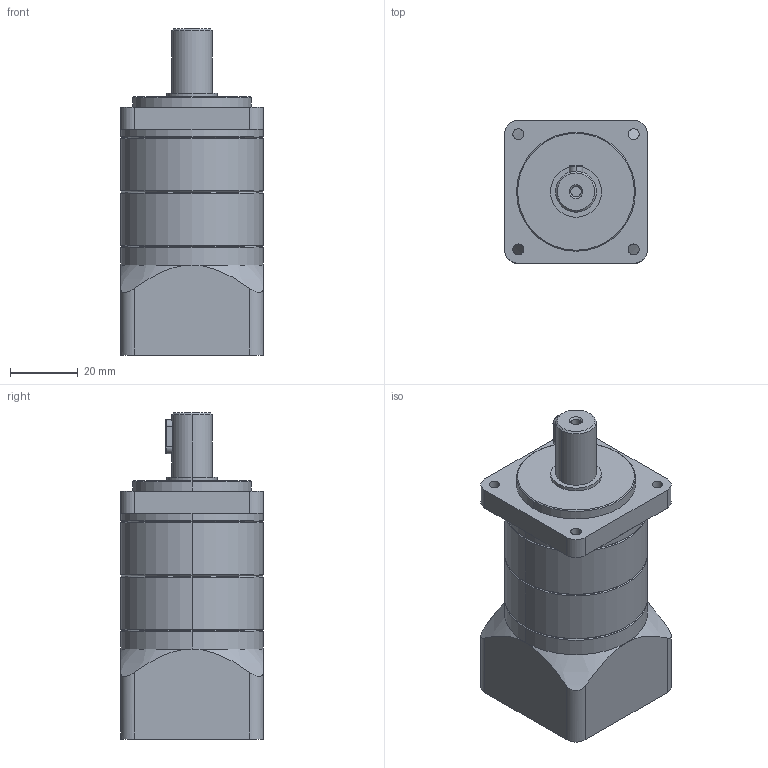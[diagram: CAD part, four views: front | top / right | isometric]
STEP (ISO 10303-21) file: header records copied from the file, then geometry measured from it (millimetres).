
FILE_DESCRIPTION (( 'STEP AP203' ), '1' );
FILE_NAME ('40-L2.STEP', '2011-06-13T09:36:05', ( 'kao' ), ( '' ), 'SwSTEP 2.0', 'SolidWorks 2009', '' );
FILE_SCHEMA (( 'CONFIG_CONTROL_DESIGN' ));
Length unit declared in the file: millimetre
Products named in the file (5): 4R; 40-L2; 4B; 4F; 4T
Assembly tree (5 placements, depth 2):
  40-L2
    4B
    4T
    4R  x2
    4F
Bounding box: 42 x 42 x 96 mm (x, y, z)
Volume: 112338.3 mm3; surface area: 26338.3 mm2
Topology: 5 solids, 5 shells, 125 faces, 264 edges, 160 vertices
Faces by surface type: cylinder 51, cone 36, plane 35, torus 3
Entity records: 3948 total; most frequent: CARTESIAN_POINT 774, DIRECTION 613, ORIENTED_EDGE 500, AXIS2_PLACEMENT_3D 253, EDGE_CURVE 250, VERTEX_POINT 152, EDGE_LOOP 136, CIRCLE 128
